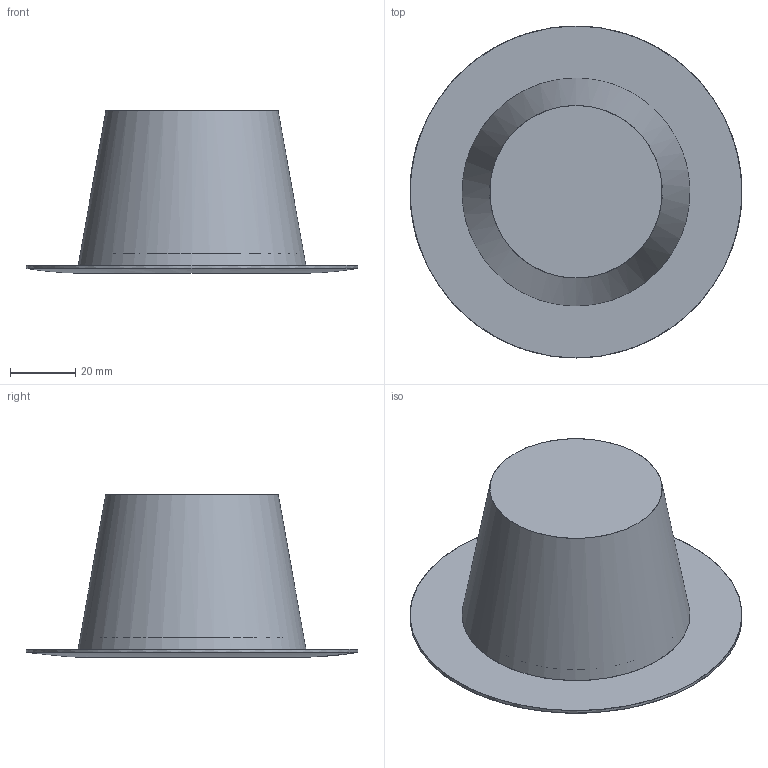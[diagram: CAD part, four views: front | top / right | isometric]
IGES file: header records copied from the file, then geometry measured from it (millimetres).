
Start section: SolidWorks IGES file using NURBS representation for surfaces
Global section: file name: Z:\Modele 3D_WWW\_KOLEKCJE WWW\HELIOS-LED-8991-8992\HELIOS-LED-8991-8992.IGS; native system: SolidWorks 2021; preprocessor: SolidWorks 2021; author: gabriela.tworek; date: 220225.090118; units: millimetre
Bounding box: 101.92 x 102 x 50 mm (x, y, z)
Surface area: 39688.4 mm2 (no closed solid volume)
Topology: 0 solids, 0 shells, 12 faces, 46 edges, 40 vertices
Faces by surface type: bspline 12
